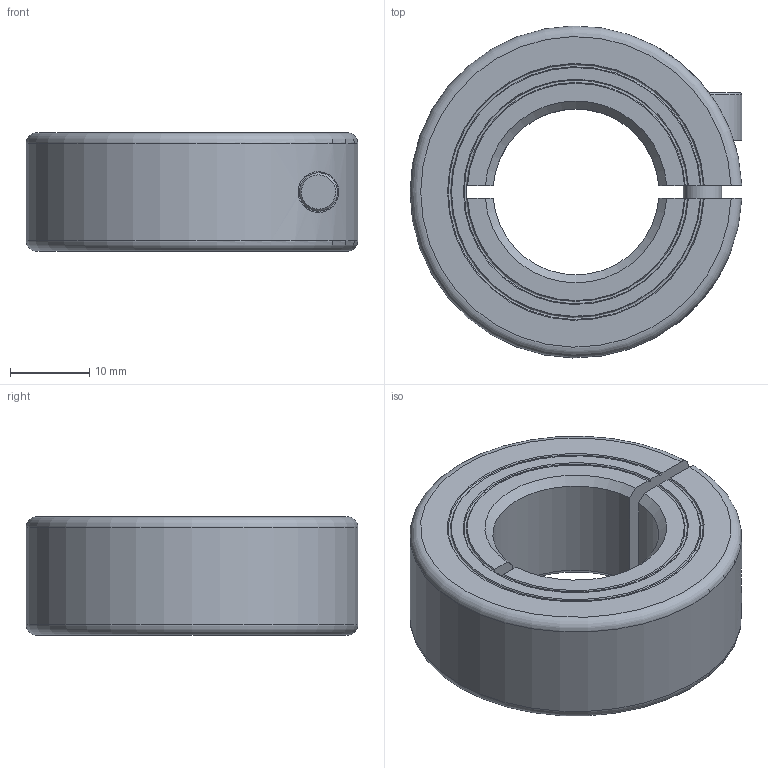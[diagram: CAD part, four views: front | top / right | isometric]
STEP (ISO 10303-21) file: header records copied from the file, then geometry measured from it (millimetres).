
FILE_DESCRIPTION((''),'2;1');
FILE_NAME('MCL-21-F','2016-09-08T',('SYSTEM'),(''),'PRO/ENGINEER BY PARAMETRIC TECHNOLOGY CORPORATION, 2015110','PRO/ENGINEER BY PARAMETRIC TECHNOLOGY CORPORATION, 2015110','');
FILE_SCHEMA(('AUTOMOTIVE_DESIGN { 1 0 10303 214 1 1 1 1 }'));
Length unit declared in the file: inch
Products named in the file (1): MCL-21-F
Bounding box: 42 x 41.99 x 15 mm (x, y, z)
Volume: 14748 mm3; surface area: 6091 mm2
Topology: 1 solids, 1 shells, 51 faces, 135 edges, 90 vertices
Faces by surface type: plane 22, cone 13, cylinder 12, torus 4
Entity records: 2162 total; most frequent: CARTESIAN_POINT 484, ORIENTED_EDGE 270, DIRECTION 252, EDGE_CURVE 135, AXIS2_PLACEMENT_3D 99, VERTEX_POINT 90, EDGE_LOOP 57, VECTOR 54
